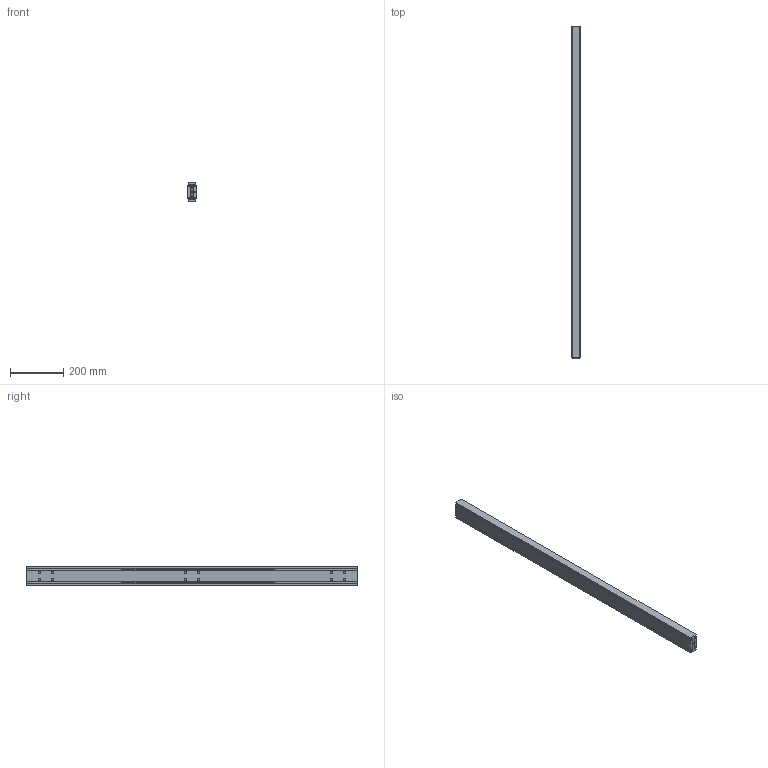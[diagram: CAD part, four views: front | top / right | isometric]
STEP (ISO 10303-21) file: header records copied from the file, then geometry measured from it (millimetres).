
FILE_DESCRIPTION(/* description */ (''),/* implementation_level */ '2;1');
FILE_NAME(/* name */ 'D:\Zeichnungen Schienen Komplett\MX-DTP70\MX-DTP70.125\MX-DTP70.125_eingefahren.step',/* time_stamp */ '2022-03-07T09:20:18+01:00',/* author */ ('zmile'),/* organization */ (''),/* preprocessor_version */ 'ST-DEVELOPER v16.13',/* originating_system */ 'AutoCAD Mechanical',/* authorisation */ '');
FILE_SCHEMA (('AUTOMOTIVE_DESIGN { 1 0 10303 214 3 1 1 }'));
Length unit declared in the file: millimetre
Products named in the file (1): Product
Bounding box: 32 x 1250 x 70 mm (x, y, z)
Volume: 2136044.9 mm3; surface area: 776659.2 mm2
Topology: 81 solids, 83 shells, 210 faces, 732 edges, 536 vertices
Faces by surface type: plane 82, sphere 76, cylinder 38, bspline 8, torus 6
Full cylindrical faces by diameter (mm): 8 x24, 13 x2
Entity records: 14519 total; most frequent: CARTESIAN_POINT 8411, DIRECTION 1250, ORIENTED_EDGE 908, EDGE_CURVE 546, VERTEX_POINT 534, AXIS2_PLACEMENT_3D 519, EDGE_LOOP 446, CIRCLE 312
